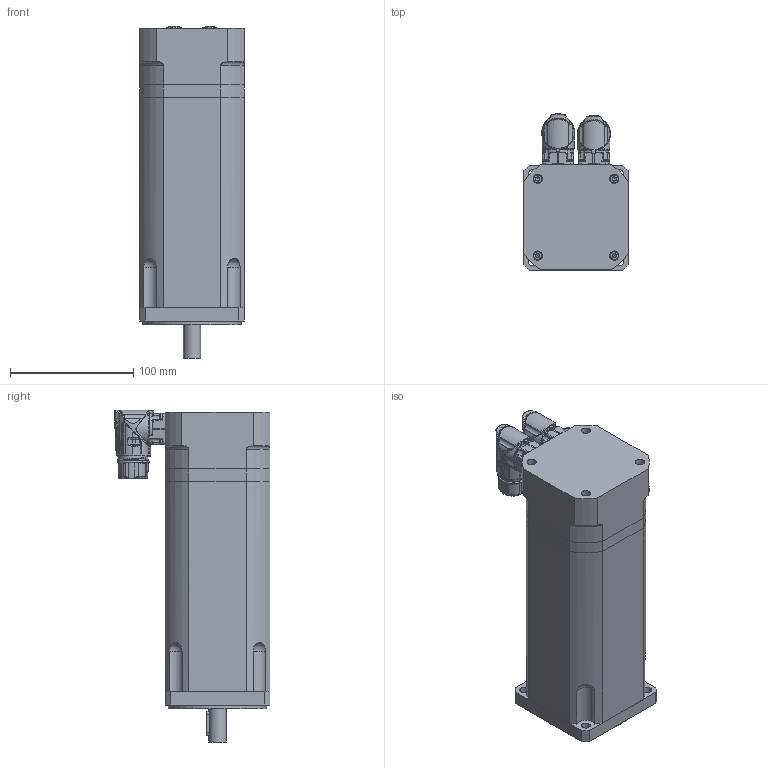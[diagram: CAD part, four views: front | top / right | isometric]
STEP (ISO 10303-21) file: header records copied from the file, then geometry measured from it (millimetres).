
FILE_DESCRIPTION(/* description */ (''),/* implementation_level */ '2;1');
FILE_NAME(/* name */ 'C:\Users\Public\Documents\Autodesk\Inventor LT 2014\Workspace\TG3\DSM5_3x_xxx7\DSM5_33_x1x7.stp',/* time_stamp */ '2016-04-28T10:17:18+02:00',/* author */ ('motion'),/* organization */ (''),/* preprocessor_version */ 'ST-DEVELOPER v15.2',/* originating_system */ 'Autodesk Inventor LT ',/* authorisation */ '');
FILE_SCHEMA (('AUTOMOTIVE_DESIGN { 1 0 10303 214 3 1 1 }'));
Products named in the file (1): DSM5_33_x1x7
Bounding box: 85 x 126.43 x 269.41 mm (x, y, z)
Volume: 1652370.5 mm3; surface area: 157669.6 mm2
Topology: 15 solids, 17 shells, 3060 faces, 7701 edges, 4629 vertices
Faces by surface type: cylinder 880, bspline 853, plane 596, torus 382, cone 229, sphere 120
Full cylindrical faces by diameter (mm): 1.2 x17, 2 x6, 2.15 x6, 2.224 x8, 2.5 x8, 2.7 x8, 3 x1, 4 x8, 4.134 x1, 4.5 x2, 5 x4, 5.5 x3, 5.9 x2, 7 x12, 7.2 x4, 7.5 x4, 14 x1, 15 x1, 15.2 x1, 19.1 x1, 21.6 x1, 22.5 x1, 23 x2, 24.4 x1, 28 x1, 35 x2, 60 x1, 80 x1
Entity records: 189383 total; most frequent: CARTESIAN_POINT 120010, ORIENTED_EDGE 14494, DIRECTION 12705, EDGE_CURVE 7247, AXIS2_PLACEMENT_3D 5470, VERTEX_POINT 4541, EDGE_LOOP 3460, ADVANCED_FACE 3057
